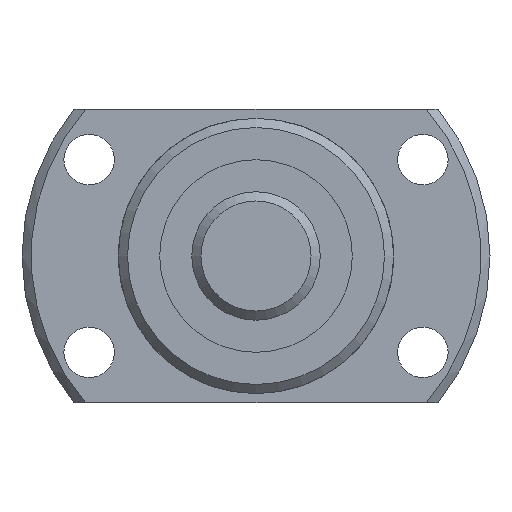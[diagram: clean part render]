
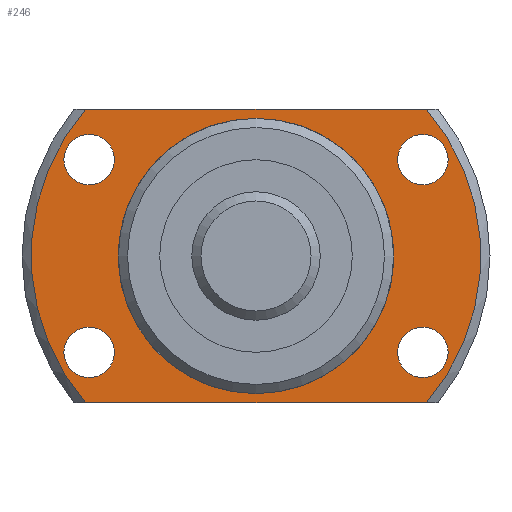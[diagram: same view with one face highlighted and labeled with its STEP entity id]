
A CAD part, left-side view. The second image highlights one B-rep face of the part: STEP entity #246.
In plain terms, the highlighted planar face has unit normal (-1, 0, 0).
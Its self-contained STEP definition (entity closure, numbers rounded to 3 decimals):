
#246 = ADVANCED_FACE( '', ( #440, #441, #442, #443, #444, #445 ), #446, .F. );
#440 = FACE_OUTER_BOUND( '', #639, .T. );
#441 = FACE_BOUND( '', #640, .T. );
#442 = FACE_BOUND( '', #641, .T. );
#443 = FACE_BOUND( '', #642, .T. );
#444 = FACE_BOUND( '', #643, .T. );
#445 = FACE_BOUND( '', #644, .T. );
#446 = PLANE( '', #645 );
#639 = EDGE_LOOP( '', ( #1180, #1181, #1182, #1183 ) );
#640 = EDGE_LOOP( '', ( #1184 ) );
#641 = EDGE_LOOP( '', ( #1185 ) );
#642 = EDGE_LOOP( '', ( #1186 ) );
#643 = EDGE_LOOP( '', ( #1187 ) );
#644 = EDGE_LOOP( '', ( #1188 ) );
#645 = AXIS2_PLACEMENT_3D( '', #1189, #1190, #1191 );
#1180 = ORIENTED_EDGE( '', *, *, #1233, .F. );
#1181 = ORIENTED_EDGE( '', *, *, #1296, .T. );
#1182 = ORIENTED_EDGE( '', *, *, #1307, .F. );
#1183 = ORIENTED_EDGE( '', *, *, #1227, .T. );
#1184 = ORIENTED_EDGE( '', *, *, #1272, .T. );
#1185 = ORIENTED_EDGE( '', *, *, #1274, .T. );
#1186 = ORIENTED_EDGE( '', *, *, #1276, .T. );
#1187 = ORIENTED_EDGE( '', *, *, #1278, .T. );
#1188 = ORIENTED_EDGE( '', *, *, #1308, .T. );
#1189 = CARTESIAN_POINT( '', ( 27., 14.8, 0. ) );
#1190 = DIRECTION( '', ( 1., 0., 0. ) );
#1191 = DIRECTION( '', ( 0., 0., -1. ) );
#1227 = EDGE_CURVE( '', #1411, #1409, #1412, .T. );
#1233 = EDGE_CURVE( '', #1422, #1409, #1423, .T. );
#1272 = EDGE_CURVE( '', #1495, #1495, #1496, .T. );
#1274 = EDGE_CURVE( '', #1499, #1499, #1500, .T. );
#1276 = EDGE_CURVE( '', #1503, #1503, #1504, .T. );
#1278 = EDGE_CURVE( '', #1507, #1507, #1508, .T. );
#1296 = EDGE_CURVE( '', #1422, #1536, #1538, .T. );
#1307 = EDGE_CURVE( '', #1411, #1536, #1553, .T. );
#1308 = EDGE_CURVE( '', #1554, #1554, #1555, .T. );
#1409 = VERTEX_POINT( '', #1692 );
#1411 = VERTEX_POINT( '', #1697 );
#1412 = LINE( '', #1698, #1699 );
#1422 = VERTEX_POINT( '', #1720 );
#1423 = CIRCLE( '', #1721, 24.5 );
#1495 = VERTEX_POINT( '', #1856 );
#1496 = CIRCLE( '', #1857, 2.75 );
#1499 = VERTEX_POINT( '', #1860 );
#1500 = CIRCLE( '', #1861, 2.75 );
#1503 = VERTEX_POINT( '', #1864 );
#1504 = CIRCLE( '', #1865, 2.75 );
#1507 = VERTEX_POINT( '', #1868 );
#1508 = CIRCLE( '', #1869, 2.75 );
#1536 = VERTEX_POINT( '', #1906 );
#1538 = LINE( '', #1911, #1912 );
#1553 = CIRCLE( '', #1935, 24.5 );
#1554 = VERTEX_POINT( '', #1936 );
#1555 = CIRCLE( '', #1937, 14.8 );
#1692 = CARTESIAN_POINT( '', ( 27., 18.554, 16. ) );
#1697 = CARTESIAN_POINT( '', ( 27., -18.554, 16. ) );
#1698 = CARTESIAN_POINT( '', ( 27., 14.8, 16. ) );
#1699 = VECTOR( '', #2108, 1000. );
#1720 = CARTESIAN_POINT( '', ( 27., 18.554, -16. ) );
#1721 = AXIS2_PLACEMENT_3D( '', #2111, #2112, #2113 );
#1856 = CARTESIAN_POINT( '', ( 27., -18.187, -13.25 ) );
#1857 = AXIS2_PLACEMENT_3D( '', #2179, #2180, #2181 );
#1860 = CARTESIAN_POINT( '', ( 27., -18.187, 7.75 ) );
#1861 = AXIS2_PLACEMENT_3D( '', #2185, #2186, #2187 );
#1864 = CARTESIAN_POINT( '', ( 27., 18.187, -13.25 ) );
#1865 = AXIS2_PLACEMENT_3D( '', #2191, #2192, #2193 );
#1868 = CARTESIAN_POINT( '', ( 27., 18.187, 7.75 ) );
#1869 = AXIS2_PLACEMENT_3D( '', #2197, #2198, #2199 );
#1906 = CARTESIAN_POINT( '', ( 27., -18.554, -16. ) );
#1911 = CARTESIAN_POINT( '', ( 27., 14.8, -16. ) );
#1912 = VECTOR( '', #2230, 1000. );
#1935 = AXIS2_PLACEMENT_3D( '', #2251, #2252, #2253 );
#1936 = CARTESIAN_POINT( '', ( 27., 0., -14.8 ) );
#1937 = AXIS2_PLACEMENT_3D( '', #2254, #2255, #2256 );
#2108 = DIRECTION( '', ( 0., 1., 0. ) );
#2111 = CARTESIAN_POINT( '', ( 27., 0., 0. ) );
#2112 = DIRECTION( '', ( 1., 0., 0. ) );
#2113 = DIRECTION( '', ( 0., 0., -1. ) );
#2179 = CARTESIAN_POINT( '', ( 27., -18.187, -10.5 ) );
#2180 = DIRECTION( '', ( 1., 0., 0. ) );
#2181 = DIRECTION( '', ( 0., 0., -1. ) );
#2185 = CARTESIAN_POINT( '', ( 27., -18.187, 10.5 ) );
#2186 = DIRECTION( '', ( 1., 0., 0. ) );
#2187 = DIRECTION( '', ( 0., 0., -1. ) );
#2191 = CARTESIAN_POINT( '', ( 27., 18.187, -10.5 ) );
#2192 = DIRECTION( '', ( 1., 0., 0. ) );
#2193 = DIRECTION( '', ( 0., 0., -1. ) );
#2197 = CARTESIAN_POINT( '', ( 27., 18.187, 10.5 ) );
#2198 = DIRECTION( '', ( 1., 0., 0. ) );
#2199 = DIRECTION( '', ( 0., 0., -1. ) );
#2230 = DIRECTION( '', ( 0., -1., 0. ) );
#2251 = CARTESIAN_POINT( '', ( 27., 0., 0. ) );
#2252 = DIRECTION( '', ( 1., 0., 0. ) );
#2253 = DIRECTION( '', ( 0., 0., -1. ) );
#2254 = CARTESIAN_POINT( '', ( 27., 0., 0. ) );
#2255 = DIRECTION( '', ( 1., 0., 0. ) );
#2256 = DIRECTION( '', ( 0., 0., -1. ) );
